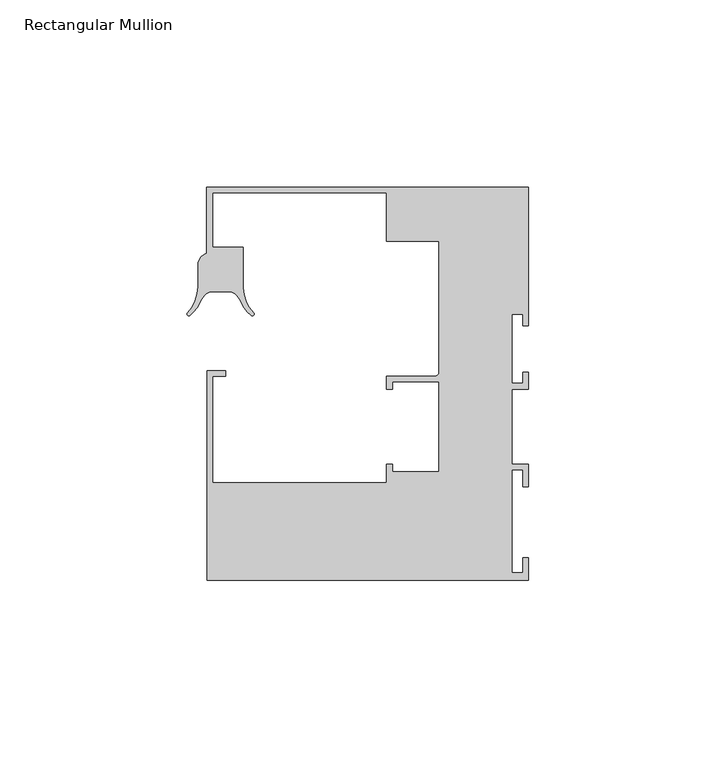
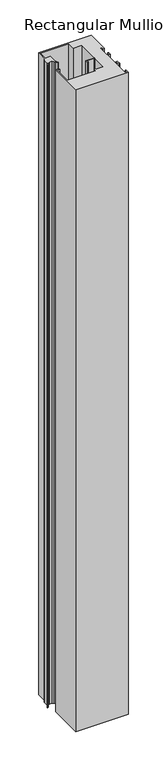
"""IFC4 building model written with IfcOpenShell, lengths in millimetres: member geometry, Rectangular Mullion : Danpal_Airpt_End-Mullion_B1."""

import ifcopenshell
import ifcopenshell.guid

model = None  # the IFC model being written
_history = None  # IfcOwnerHistory: only IFC2X3 demands one
_inside = {}  # id of a spatial element -> (the spatial element, [elements in it])
_under = {}  # id of a project, library or spatial element -> (it, [spatial elements below it])
_declared = {}  # id of a project -> (the project, [libraries it declares])
_typed = {}  # id of a type object -> (the type object, [elements of that type])
_made_of = {}  # id of a material, layer set ... -> (it, [elements and type objects made of it])


def new_model(schema):
    """Start an empty IFC model of exactly this schema.

    Asked for "IFC4X3", IfcOpenShell would pick the latest addendum, in which some entities
    have other attributes; the version numbers below select the first issue.
    IFC2X3 requires an IfcOwnerHistory on every rooted entity: one is made here for all.
    """
    global model, _history
    if schema == "IFC4X3":
        model = ifcopenshell.file(schema_version=(4, 3, 0, 0))
    else:
        model = ifcopenshell.file(schema=schema)
    _inside.clear()
    _under.clear()
    _declared.clear()
    _typed.clear()
    _made_of.clear()
    _history = None
    if model.schema == "IFC2X3":
        org = make("IfcOrganization", Name="unknown")
        user = make(
            "IfcPersonAndOrganization",
            ThePerson=make("IfcPerson", FamilyName="unknown"),
            TheOrganization=org,
        )
        app = make(
            "IfcApplication",
            ApplicationDeveloper=org,
            Version="unknown",
            ApplicationFullName="unknown",
            ApplicationIdentifier="unknown",
        )
        _history = make(
            "IfcOwnerHistory",
            OwningUser=user,
            OwningApplication=app,
            ChangeAction="ADDED",
            CreationDate=0,
        )
    return model


def make(cls, **values):
    """One entity of the class cls with the attributes given. An attribute that is None is left unset."""
    return model.create_entity(
        cls, **{name: value for name, value in values.items() if value is not None}
    )


def rooted(cls, **values):
    """An entity with a GlobalId (a new one), such as an element, a storey or a relation."""
    return make(cls, GlobalId=ifcopenshell.guid.new(), OwnerHistory=_history, **values)


def si_unit(unit_type, name, prefix=None):
    """IfcSIUnit, for example si_unit("LENGTHUNIT", "METRE", prefix="MILLI")."""
    return make("IfcSIUnit", UnitType=unit_type, Prefix=prefix, Name=name)


def assignment(units):
    """IfcUnitAssignment: the units of a project."""
    return None if units is None else make("IfcUnitAssignment", Units=units)


def point(xyz):
    """IfcCartesianPoint."""
    return None if xyz is None else make("IfcCartesianPoint", Coordinates=xyz)


def direction(xyz):
    """IfcDirection."""
    return None if xyz is None else make("IfcDirection", DirectionRatios=xyz)


def frame(location, z_axis=None, x_axis=None):
    """IfcAxis2Placement3D, a coordinate frame: its origin and axes. An axis left out is left unset."""
    return make(
        "IfcAxis2Placement3D",
        Location=point(location),
        Axis=direction(z_axis),
        RefDirection=direction(x_axis),
    )


def frame_2d(location, x_axis=None):
    """IfcAxis2Placement2D, a coordinate frame in the plane: its origin and x axis."""
    return make(
        "IfcAxis2Placement2D", Location=point(location), RefDirection=direction(x_axis)
    )


def origin():
    """The frame at (0, 0, 0) with its axes left unset."""
    return frame((0.0, 0.0, 0.0))


def place(relative_to, where):
    """IfcLocalPlacement: puts the frame where relative to a parent placement (None: the world)."""
    return make(
        "IfcLocalPlacement", PlacementRelTo=relative_to, RelativePlacement=where
    )


def context(
    kind, dimensions, precision=None, world=None, true_north=None, identifier=None
):
    """IfcGeometricRepresentationContext, for example the 3D "Model" context."""
    return make(
        "IfcGeometricRepresentationContext",
        ContextIdentifier=identifier,
        ContextType=kind,
        CoordinateSpaceDimension=dimensions,
        Precision=precision,
        WorldCoordinateSystem=world,
        TrueNorth=true_north,
    )


def project(units=None, contexts=None):
    """IfcProject with its units and contexts."""
    return rooted(
        "IfcProject",
        Name="project",
        RepresentationContexts=contexts,
        UnitsInContext=assignment(units),
    )


def spatial(cls, under=None, at=None, **own):
    """A site, building, storey or space (cls), placed at a placement, below another one or the project."""
    s = rooted(cls, ObjectPlacement=at, **own)
    if under is not None:
        _under.setdefault(under.id(), (under, []))[1].append(s)
    return s


def polyline(points):
    """IfcPolyline through the points."""
    return make("IfcPolyline", Points=[point(p) for p in points])


def circle_curve(where, radius):
    """IfcCircle in the frame where."""
    return make("IfcCircle", Position=where, Radius=radius)


def trimmed(basis, trim1, trim2, sense, master):
    """IfcTrimmedCurve: the piece of a basis curve between two trims."""
    return make(
        "IfcTrimmedCurve",
        BasisCurve=basis,
        Trim1=trim1,
        Trim2=trim2,
        SenseAgreement=sense,
        MasterRepresentation=master,
    )


def segment(curve, same_sense, transition):
    """IfcCompositeCurveSegment."""
    return make(
        "IfcCompositeCurveSegment",
        Transition=transition,
        SameSense=same_sense,
        ParentCurve=curve,
    )


def composite_curve(segments, self_intersect=None):
    """IfcCompositeCurve: segments joined end to end."""
    return make("IfcCompositeCurve", Segments=segments, SelfIntersect=self_intersect)


def outline(outer, holes=None, kind="AREA"):
    """IfcArbitraryClosedProfileDef: a profile drawn as a closed curve; with holes, ...WithVoids."""
    if holes is None:
        return make("IfcArbitraryClosedProfileDef", ProfileType=kind, OuterCurve=outer)
    return make(
        "IfcArbitraryProfileDefWithVoids",
        ProfileType=kind,
        OuterCurve=outer,
        InnerCurves=holes,
    )


def extrude(swept, where, along, depth):
    """IfcExtrudedAreaSolid: the profile swept, set in the frame where, extruded along a direction by depth."""
    return make(
        "IfcExtrudedAreaSolid",
        SweptArea=swept,
        Position=where,
        ExtrudedDirection=direction(along),
        Depth=depth,
    )


def shape(context_of_items, identifier, shape_type, items):
    """IfcShapeRepresentation: the items that make up one representation, for example the "Body"."""
    return make(
        "IfcShapeRepresentation",
        ContextOfItems=context_of_items,
        RepresentationIdentifier=identifier,
        RepresentationType=shape_type,
        Items=items,
    )


def source(mapping_origin, context_of_items, identifier, shape_type, items):
    """IfcRepresentationMap: a shape defined once, which mapped items show again and again."""
    return make(
        "IfcRepresentationMap",
        MappingOrigin=mapping_origin,
        MappedRepresentation=shape(context_of_items, identifier, shape_type, items),
    )


def transform(
    local_origin,
    x_axis=None,
    y_axis=None,
    z_axis=None,
    scale=None,
    scale2=None,
    scale3=None,
    uniform=True,
):
    """IfcCartesianTransformationOperator3D, or its non-uniform kind. x_axis, y_axis, z_axis: its Axis1, 2, 3."""
    if uniform:
        return make(
            "IfcCartesianTransformationOperator3D",
            Axis1=direction(x_axis),
            Axis2=direction(y_axis),
            LocalOrigin=point(local_origin),
            Scale=scale,
            Axis3=direction(z_axis),
        )
    return make(
        "IfcCartesianTransformationOperator3DnonUniform",
        Axis1=direction(x_axis),
        Axis2=direction(y_axis),
        LocalOrigin=point(local_origin),
        Scale=scale,
        Axis3=direction(z_axis),
        Scale2=scale2,
        Scale3=scale3,
    )


def mapped(mapping_source, mapping_target):
    """IfcMappedItem: shows the shape of a source again, moved by a transform."""
    return make(
        "IfcMappedItem", MappingSource=mapping_source, MappingTarget=mapping_target
    )


def made_of(thing, what):
    """Note that an element or type object is made of a material, layer set ...; save() writes the relation."""
    if what is not None:
        _made_of.setdefault(what.id(), (what, []))[1].append(thing)
    return thing


def element(
    cls,
    number,
    at=None,
    inside=None,
    cuts=None,
    type_object=None,
    material=None,
    context=None,
    identifier="Body",
    shape_type=None,
    held_by="IfcProductDefinitionShape",
    body=None,
    shapes=None,
    **own,
):
    """One element of the class cls, such as IfcWall. Its Tag is "e" and its number.

    at: its placement. inside: the storey or other place that contains it. cuts: it is an
    opening in that element (IfcRelVoidsElement). A single representation is given by context,
    identifier, shape_type and body (its items); several are given by shapes. held_by: the class
    of the entity that holds the representations. save() writes the other relations.
    """
    e = rooted(cls, Tag="e%d" % number, ObjectPlacement=at, **own)
    if body is not None:
        shapes = [shape(context, identifier, shape_type, body)]
    if shapes is not None:
        e.Representation = make(held_by, Representations=shapes)
    if inside is not None:
        _inside.setdefault(inside.id(), (inside, []))[1].append(e)
    if cuts is not None:
        rooted(
            "IfcRelVoidsElement", RelatingBuildingElement=cuts, RelatedOpeningElement=e
        )
    if type_object is not None:
        _typed.setdefault(type_object.id(), (type_object, []))[1].append(e)
    return made_of(e, material)


def aggregate(whole, parts):
    """IfcRelAggregates: a whole, such as a stair, and the parts it consists of."""
    return rooted("IfcRelAggregates", RelatingObject=whole, RelatedObjects=parts)


def save(model, path):
    """Write the relations noted so far, then the file.

    IfcRelAggregates (storeys below a building ...), IfcRelContainedInSpatialStructure (elements
    in a storey), IfcRelDefinesByType, IfcRelAssociatesMaterial and IfcRelDeclares: one each for
    every whole, place, type object, material and project.
    """
    for whole, parts in _under.values():
        aggregate(whole, parts)
    for where, things in _inside.values():
        rooted(
            "IfcRelContainedInSpatialStructure",
            RelatedElements=things,
            RelatingStructure=where,
        )
    for kind, things in _typed.values():
        rooted("IfcRelDefinesByType", RelatedObjects=things, RelatingType=kind)
    for what, things in _made_of.values():
        rooted("IfcRelAssociatesMaterial", RelatedObjects=things, RelatingMaterial=what)
    for by, libraries in _declared.values():
        rooted("IfcRelDeclares", RelatingContext=by, RelatedDefinitions=libraries)
    model.write(path)


def rectangular_mullion_5ac9c958(model_context):
    return source(origin(), model_context, "Body", "SweptSolid", [
        extrude(outline(composite_curve([segment(polyline([(-84.5, -44.249979), (-38.0, -44.249979), (-38.0, -39.2500001), (-36.4, -39.2500001), (-36.4, -41.2500001), (-23.9180899, -41.2500001), (-23.9180899, -17.2500031), (-36.4180899, -17.2500031), (-36.4180899, -19.2500031), (-38.0180899, -19.2500031), (-38.0180899, -15.7500031), (-24.969716, -15.7500031)]), True, "CONTINUOUS"), segment(trimmed(circle_curve(frame_2d((-24.969716, -14.698377)), 1.0516261), [point((-24.969716, -15.7500031))], [point((-23.9180899, -14.698377))], True, "CARTESIAN"), True, "CONTINUOUS"), segment(polyline([(-23.9180899, -14.698377), (-23.9180899, 20.2499969), (-38.0180899, 20.2499969), (-38.0180899, 33.2499969), (-84.5180945, 33.2499969), (-84.5180945, 18.6499969), (-76.3180945, 18.6499969), (-76.3180945, 7.8643287)]), True, "CONTINUOUS"), segment(trimmed(circle_curve(frame_2d((-66.322244, 8.1523787)), 10.0), [point((-76.3180945, 7.8643287))], [point((-73.5120728, 1.2021009))], True, "CARTESIAN"), True, "CONTINUOUS"), segment(trimmed(circle_curve(frame_2d((-73.8718016, 0.8543575)), 0.5003301), [point((-73.5120728, 1.2021009))], [point((-74.1944462, 0.4719563))], False, "CARTESIAN"), True, "CONTINUOUS"), segment(trimmed(circle_curve(frame_2d((-67.7458114, 8.1149337)), 9.9999997), [point((-74.1944462, 0.4719563))], [point((-76.759944, 3.7853369))], False, "CARTESIAN"), True, "CONTINUOUS"), segment(trimmed(circle_curve(frame_2d((-85.7740768, -0.5442599)), 10.0), [point((-76.759944, 3.7853369))], [point((-77.9898528, 5.7331484))], True, "CARTESIAN"), True, "CONTINUOUS"), segment(trimmed(circle_curve(frame_2d((-80.32512, 3.8499259)), 3.0), [point((-77.9898528, 5.7331484))], [point((-80.32512, 6.8499259))], True, "CARTESIAN"), True, "CONTINUOUS"), segment(polyline([(-80.32512, 6.8499259), (-84.363764, 6.8499259)]), True, "CONTINUOUS"), segment(trimmed(circle_curve(frame_2d((-84.363764, 3.8499259)), 3.0), [point((-84.363764, 6.8499259))], [point((-86.6990305, 5.7331494))], True, "CARTESIAN"), True, "CONTINUOUS"), segment(trimmed(circle_curve(frame_2d((-78.9148092, -0.544262)), 9.9999997), [point((-86.6990305, 5.7331494))], [point((-87.9289412, 3.785336))], True, "CARTESIAN"), True, "CONTINUOUS"), segment(trimmed(circle_curve(frame_2d((-96.9430732, 8.114934)), 9.9999998), [point((-87.9289412, 3.785336))], [point((-90.4970116, 0.4697862))], False, "CARTESIAN"), True, "CONTINUOUS"), segment(trimmed(circle_curve(frame_2d((-90.8194227, 0.8521716)), 0.5001675), [point((-90.4970116, 0.4697862))], [point((-91.1789286, 1.1999114))], False, "CARTESIAN"), True, "CONTINUOUS"), segment(trimmed(circle_curve(frame_2d((-98.3666403, 8.1523787)), 10.0), [point((-91.1789286, 1.1999114))], [point((-88.3666989, 8.1181379))], True, "CARTESIAN"), True, "CONTINUOUS"), segment(polyline([(-88.3666989, 8.1181379), (-88.3666989, 14.1183419)]), True, "CONTINUOUS"), segment(trimmed(circle_curve(frame_2d((-85.366716, 14.1081309)), 3.0000002), [point((-88.3666989, 14.1183419))], [point((-86.0180914, 17.0365625))], False, "CARTESIAN"), True, "CONTINUOUS"), segment(polyline([(-86.0180914, 17.0365625), (-86.0180914, 34.75), (-0.0180922, 34.75), (-0.0180922, -2.25), (-1.5180922, -2.25), (-1.5180922, 0.75), (-4.5180922, 0.75), (-4.5180922, -17.65), (-1.5180922, -17.65), (-1.5180922, -14.65), (-0.0180922, -14.65), (-0.0180922, -19.25), (-4.5, -19.25), (-4.5, -39.2500001), (-0.0180937, -39.2500001), (-0.0180937, -45.2500001), (-1.5180937, -45.2500001), (-1.5180937, -40.7500001), (-4.5, -40.7500001), (-4.5, -68.2500001), (-1.5, -68.2500001), (-1.5, -64.2500001), (0.0, -64.2500001), (0.0, -70.2500001), (-86.0, -70.2500001), (-86.0, -14.2500001), (-81.0, -14.2500001), (-81.0, -15.7500001), (-84.5, -15.7500001), (-84.5, -44.249979)]), True, "CONTINUOUS")], self_intersect=False)), frame((0.0, 0.0, -1108.6804098), z_axis=(0.0, 0.0, 1.0), x_axis=(1.0, 0.0, 0.0)), (0.0, 0.0, 1.0), 1108.6804098),
    ])


if __name__ == "__main__":
    model = new_model("IFC4")
    model_context = context("Model", 3, world=origin())
    ifc_project = project(units=[si_unit("LENGTHUNIT", "METRE", prefix="MILLI")], contexts=[model_context])
    site = spatial("IfcSite", under=ifc_project)
    building = spatial("IfcBuilding", under=site)
    placement = place(None, origin())
    rectangular_mullion_shape = rectangular_mullion_5ac9c958(model_context)
    element("IfcMember", 1, ObjectType="Rectangular Mullion : Danpal_Airpt_End-Mullion_B1", at=placement, inside=building, context=model_context, shape_type="MappedRepresentation", body=[
        mapped(rectangular_mullion_shape, transform((0.0, 0.0, 0.0), x_axis=(1.0, 0.0, 0.0), y_axis=(0.0, 1.0, 0.0), z_axis=(0.0, 0.0, 1.0))),
    ])
    save(model, "model.ifc")
